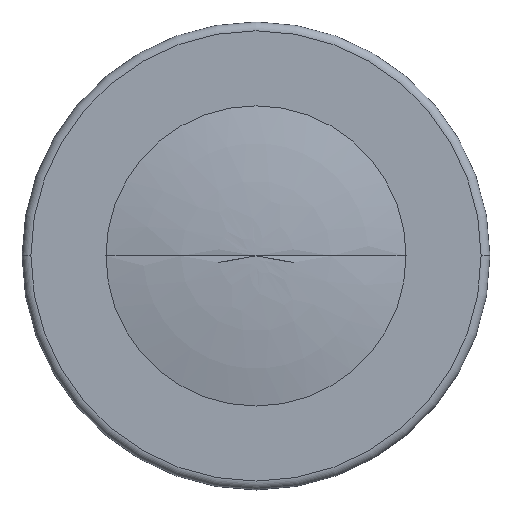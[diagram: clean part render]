
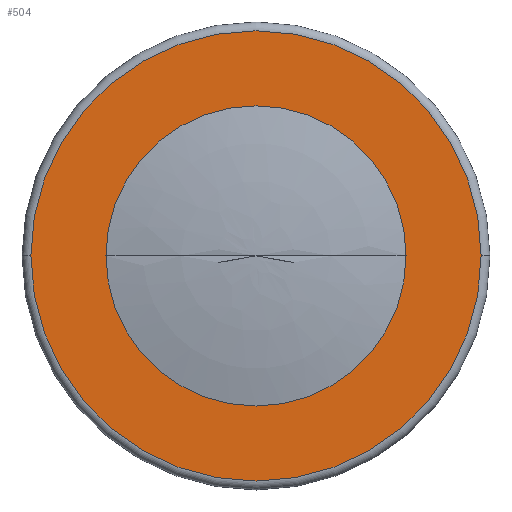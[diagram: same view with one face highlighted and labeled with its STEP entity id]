
A CAD part, top view. The second image highlights one B-rep face of the part: STEP entity #504.
In plain terms, the highlighted planar face has unit normal (0, 0, 1).
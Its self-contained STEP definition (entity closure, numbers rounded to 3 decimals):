
#35=CARTESIAN_POINT('',(0.85,0.,0.79));
#71=CARTESIAN_POINT('',(-0.85,0.,0.79));
#73=CARTESIAN_POINT('',(0.,0.,0.79));
#74=DIRECTION('',(0.,0.,-1.));
#75=DIRECTION('',(1.,0.,0.));
#76=AXIS2_PLACEMENT_3D('',#73,#74,#75);
#78=CARTESIAN_POINT('',(0.,0.,0.79));
#79=DIRECTION('',(0.,0.,1.));
#80=DIRECTION('',(1.,0.,0.));
#81=AXIS2_PLACEMENT_3D('',#78,#79,#80);
#83=CARTESIAN_POINT('',(0.,0.,0.79));
#84=DIRECTION('',(0.,0.,-1.));
#85=DIRECTION('',(1.,0.,0.));
#86=AXIS2_PLACEMENT_3D('',#83,#84,#85);
#88=CARTESIAN_POINT('',(0.,0.,0.79));
#89=DIRECTION('',(0.,0.,-1.));
#90=DIRECTION('',(-1.,0.,0.));
#91=AXIS2_PLACEMENT_3D('',#88,#89,#90);
#364=VERTEX_POINT('',#35);
#365=VERTEX_POINT('',#71);
#387=CARTESIAN_POINT('',(1.275,0.,0.79));
#388=CARTESIAN_POINT('',(-1.275,0.,0.79));
#389=VERTEX_POINT('',#387);
#390=VERTEX_POINT('',#388);
#489=CARTESIAN_POINT('',(0.,0.,0.79));
#490=DIRECTION('',(0.,0.,1.));
#491=DIRECTION('',(-1.,0.,0.));
#492=AXIS2_PLACEMENT_3D('',#489,#490,#491);
#493=PLANE('',#492);
#495=ORIENTED_EDGE('',*,*,#494,.T.);
#497=ORIENTED_EDGE('',*,*,#496,.T.);
#498=EDGE_LOOP('',(#495,#497));
#499=FACE_OUTER_BOUND('',#498,.F.);
#500=ORIENTED_EDGE('',*,*,#483,.F.);
#501=ORIENTED_EDGE('',*,*,#436,.T.);
#502=EDGE_LOOP('',(#500,#501));
#503=FACE_BOUND('',#502,.F.);
#504=ADVANCED_FACE('',(#499,#503),#493,.T.);
#77=CIRCLE('',#76,0.85);
#82=CIRCLE('',#81,0.85);
#87=CIRCLE('',#86,1.275);
#92=CIRCLE('',#91,1.275);
#436=EDGE_CURVE('',#364,#365,#82,.T.);
#483=EDGE_CURVE('',#364,#365,#77,.T.);
#494=EDGE_CURVE('',#389,#390,#87,.T.);
#496=EDGE_CURVE('',#390,#389,#92,.T.);
